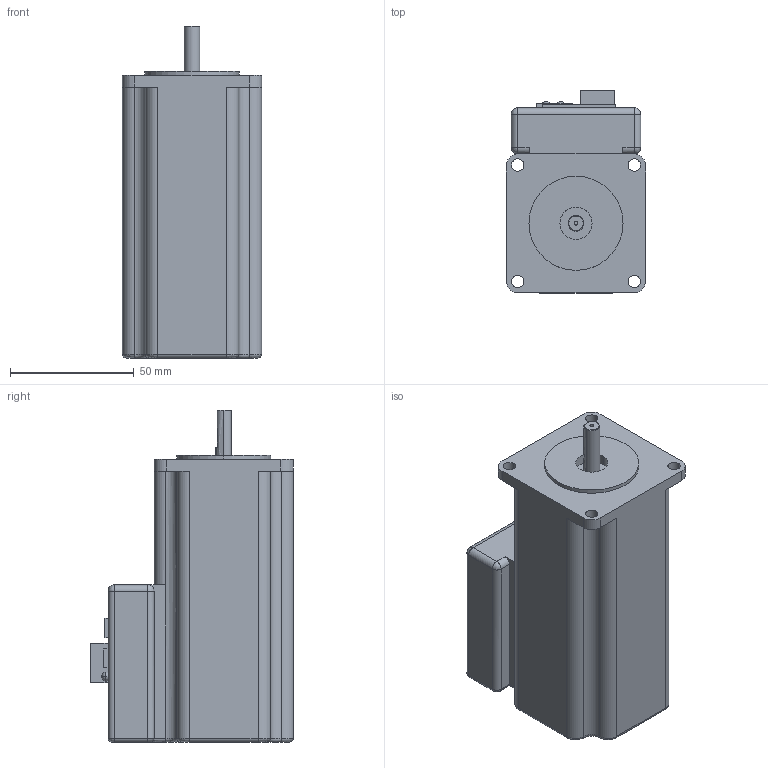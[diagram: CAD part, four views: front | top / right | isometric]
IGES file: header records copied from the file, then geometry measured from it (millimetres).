
Start section:  PTC IGES file: cu_ism-7412.igs
Global section: file name: cu_ism-7412.igs; native system: Creo Parametric by Parametric Technology Corporation; preprocessor: 2014000; author: jbuhisan; organization: Unknown; date: 20140801.124435; units: centimetre
Bounding box: 56.4 x 82.05 x 134.4 mm (x, y, z)
Surface area: 37799.6 mm2 (no closed solid volume)
Topology: 0 solids, 0 shells, 136 faces, 724 edges, 720 vertices
Faces by surface type: revolution 78, bspline 58
